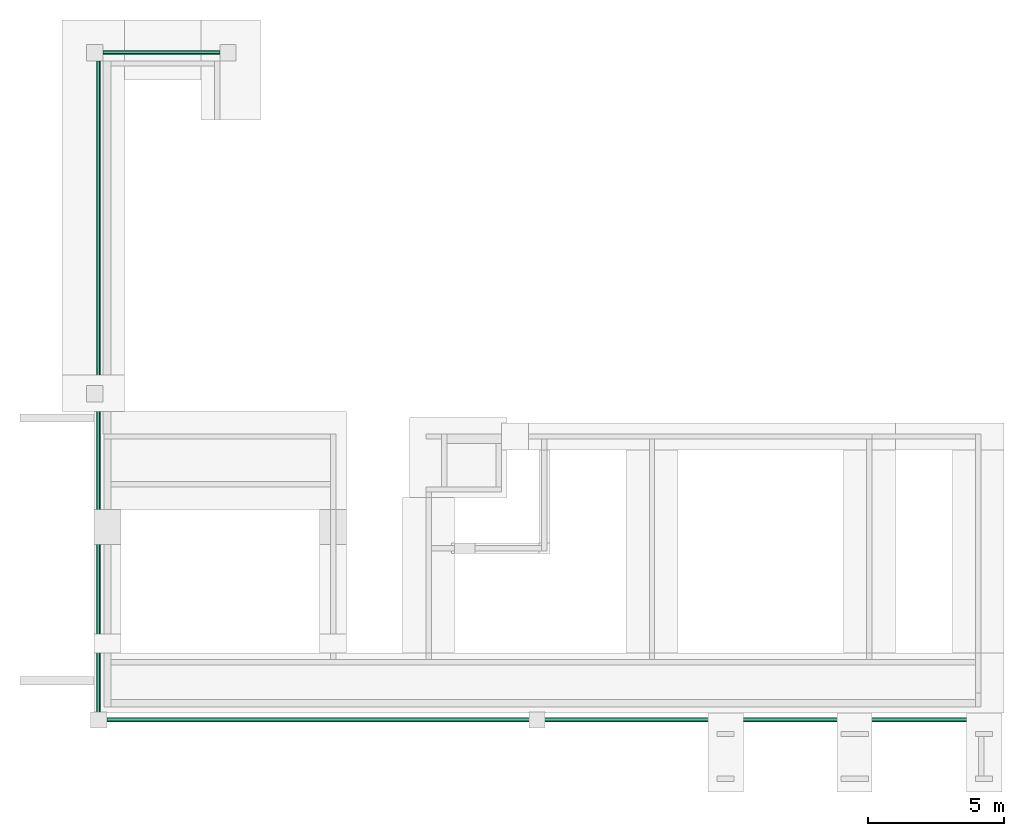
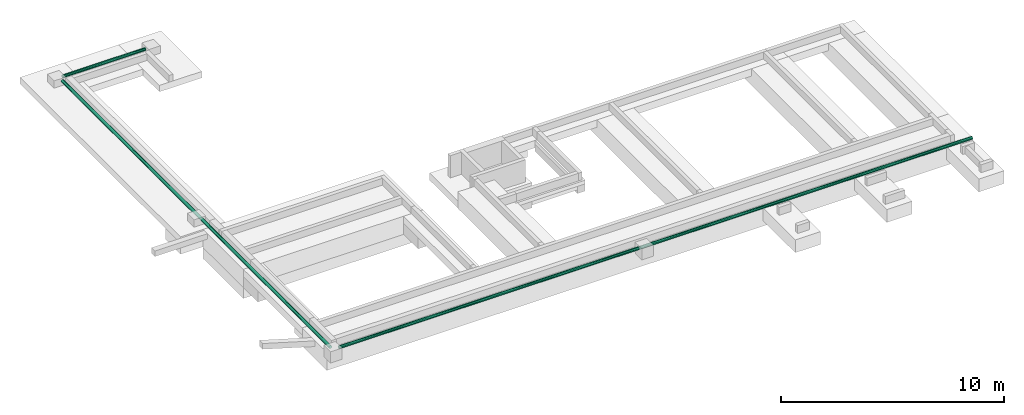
# One storey, part 3 of 4: 3 flow segments.
"""IFC2X3 building model written with IfcOpenShell, lengths in metres."""

from ifc_helpers import new_model, entity, si_unit, converted_unit, derived_unit, direction, frame, frame_2d, origin, origin_2d_with_axis, place, context, subcontext, project, spatial, circle, extrude, type_object, element, save


model = new_model("IFC2X3")

# Units and contexts
model_context = context("Model", 3, precision=1e-05, world=origin(), true_north=direction((6.12303176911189e-17, 1.0)))
body_context = subcontext(model_context, "Body", "Model", "MODEL_VIEW")
ifc_project = project(units=[si_unit("LENGTHUNIT", "METRE"), si_unit("AREAUNIT", "SQUARE_METRE"), si_unit("VOLUMEUNIT", "CUBIC_METRE"), converted_unit("PLANEANGLEUNIT", "DEGREE", entity("IfcRatioMeasure", 0.0174532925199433), si_unit("PLANEANGLEUNIT", "RADIAN"), dimensions=[0, 0, 0, 0, 0, 0, 0]), si_unit("MASSUNIT", "GRAM", prefix="KILO"), derived_unit("MASSDENSITYUNIT", [(si_unit("MASSUNIT", "GRAM", prefix="KILO"), 1), (si_unit("LENGTHUNIT", "METRE"), -3)]), si_unit("TIMEUNIT", "SECOND"), si_unit("FREQUENCYUNIT", "HERTZ"), si_unit("THERMODYNAMICTEMPERATUREUNIT", "DEGREE_CELSIUS"), derived_unit("THERMALTRANSMITTANCEUNIT", [(si_unit("MASSUNIT", "GRAM", prefix="KILO"), 1), (si_unit("THERMODYNAMICTEMPERATUREUNIT", "KELVIN"), -1), (si_unit("TIMEUNIT", "SECOND"), -3)]), derived_unit("VOLUMETRICFLOWRATEUNIT", [(si_unit("LENGTHUNIT", "METRE"), 3), (si_unit("TIMEUNIT", "SECOND"), -1)]), si_unit("ELECTRICCURRENTUNIT", "AMPERE"), si_unit("ELECTRICVOLTAGEUNIT", "VOLT"), si_unit("POWERUNIT", "WATT"), si_unit("FORCEUNIT", "NEWTON"), si_unit("ILLUMINANCEUNIT", "LUX"), si_unit("LUMINOUSFLUXUNIT", "LUMEN"), si_unit("LUMINOUSINTENSITYUNIT", "CANDELA"), derived_unit("USERDEFINED", [(si_unit("MASSUNIT", "GRAM", prefix="KILO"), -1), (si_unit("LENGTHUNIT", "METRE"), -2), (si_unit("TIMEUNIT", "SECOND"), 3), (si_unit("LUMINOUSFLUXUNIT", "LUMEN"), 1)]), derived_unit("LINEARVELOCITYUNIT", [(si_unit("LENGTHUNIT", "METRE"), 1), (si_unit("TIMEUNIT", "SECOND"), -1)]), si_unit("PRESSUREUNIT", "PASCAL"), derived_unit("USERDEFINED", [(si_unit("LENGTHUNIT", "METRE"), -2), (si_unit("MASSUNIT", "GRAM", prefix="KILO"), 1), (si_unit("TIMEUNIT", "SECOND"), -2)])], contexts=[model_context])

# Site, building, storey
site_placement = place(None, origin())
site = spatial("IfcSite", under=ifc_project, at=site_placement, Name="Default", CompositionType="ELEMENT")
building_placement = place(site_placement, origin())
building = spatial("IfcBuilding", under=site, at=building_placement, CompositionType="ELEMENT")
storey_placement = place(building_placement, frame((0.0, 0.0, -5.05)))
storey = spatial("IfcBuildingStorey", under=building, at=storey_placement, Name="S02", CompositionType="ELEMENT", Elevation=-5.05)

# Flow segments
pipe_segment_type = type_object("IfcPipeSegmentType", Name="Pipe Types:II DEP", PredefinedType="NOTDEFINED")
flow_segment_1_placement = place(storey_placement, origin())
element("IfcFlowSegment", 1, at=flow_segment_1_placement, inside=storey, type_object=pipe_segment_type, Name="Pipe Types:II DEP", ObjectType="Pipe Types:II DEP", context=body_context, shape_type="SweptSolid", body=[
    extrude(circle(Radius=0.08, at=frame_2d((-2.16573425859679e-14, 0.0), x_axis=(1.0, 0.0))), frame((33.1286274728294, -195.270552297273, 0.25), z_axis=(0.0, 1.0, 0.0), x_axis=(-1.0, 0.0, 0.0)), (0.0, 0.0, 1.0), 24.0357695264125),
])
flow_segment_2_placement = place(storey_placement, origin())
element("IfcFlowSegment", 2, at=flow_segment_2_placement, inside=storey, type_object=pipe_segment_type, Name="Pipe Types:II DEP", ObjectType="Pipe Types:II DEP", context=body_context, shape_type="SweptSolid", body=[
    extrude(circle(Radius=0.08, at=origin_2d_with_axis()), frame((33.4330675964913, -195.479651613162, 0.25), z_axis=(1.0, 0.0, 0.0), x_axis=(0.0, -1.0, 0.0)), (0.0, 0.0, 1.0), 32.7955598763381),
])
flow_segment_3_placement = place(storey_placement, origin())
element("IfcFlowSegment", 3, at=flow_segment_3_placement, inside=storey, type_object=pipe_segment_type, Name="Pipe Types:II DEP", ObjectType="Pipe Types:II DEP", context=body_context, shape_type="SweptSolid", body=[
    extrude(circle(Radius=0.08, at=origin_2d_with_axis()), frame((33.2930675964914, -170.930958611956, 0.25), z_axis=(1.0, 0.0, 0.0), x_axis=(0.0, 1.0, 0.0)), (0.0, 0.0, 1.0), 4.29667610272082),
])

save(model, "model.ifc")
